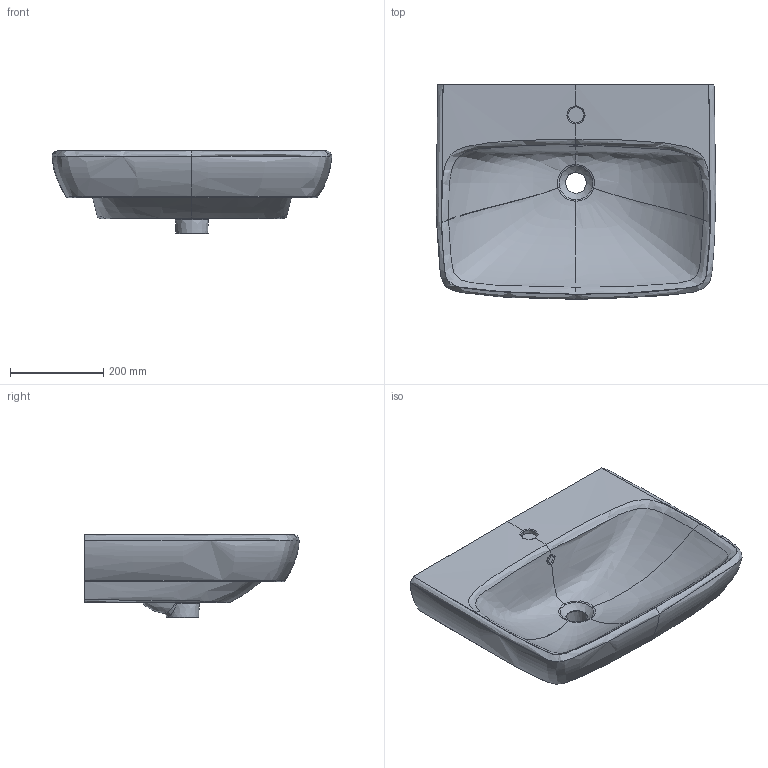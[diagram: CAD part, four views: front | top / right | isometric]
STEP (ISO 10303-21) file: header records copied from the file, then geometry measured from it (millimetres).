
FILE_DESCRIPTION(/* description */ (''),/* implementation_level */ '2;1');
FILE_NAME(/* name */ 'C:\Planerdaten\Export PLA\500.300.01.1\stp\500300.stp',/* time_stamp */ '2020-05-01T05:25:11-07:00',/* author */ ('JANAN'),/* organization */ (''),/* preprocessor_version */ 'ST-DEVELOPER v16.13',/* originating_system */ 'Autodesk Inventor 2018',/* authorisation */ '');
FILE_SCHEMA (('AUTOMOTIVE_DESIGN { 1 0 10303 214 3 1 1 }'));
Products named in the file (1): WT Ge+SnvS B60 m/ÜLF m/HLo
Bounding box: 599.77 x 460 x 180 mm (x, y, z)
Volume: 18564820.5 mm3; surface area: 829865.2 mm2
Topology: 1 solids, 1 shells, 90 faces, 229 edges, 140 vertices
Faces by surface type: bspline 67, plane 13, cylinder 5, sphere 2, cone 2, torus 1
Full cylindrical faces by diameter (mm): 46 x1
Entity records: 43402 total; most frequent: CARTESIAN_POINT 41583, ORIENTED_EDGE 444, EDGE_CURVE 222, DIRECTION 204, VERTEX_POINT 140, B_SPLINE_CURVE_WITH_KNOTS 121, EDGE_LOOP 98, STYLED_ITEM 91
